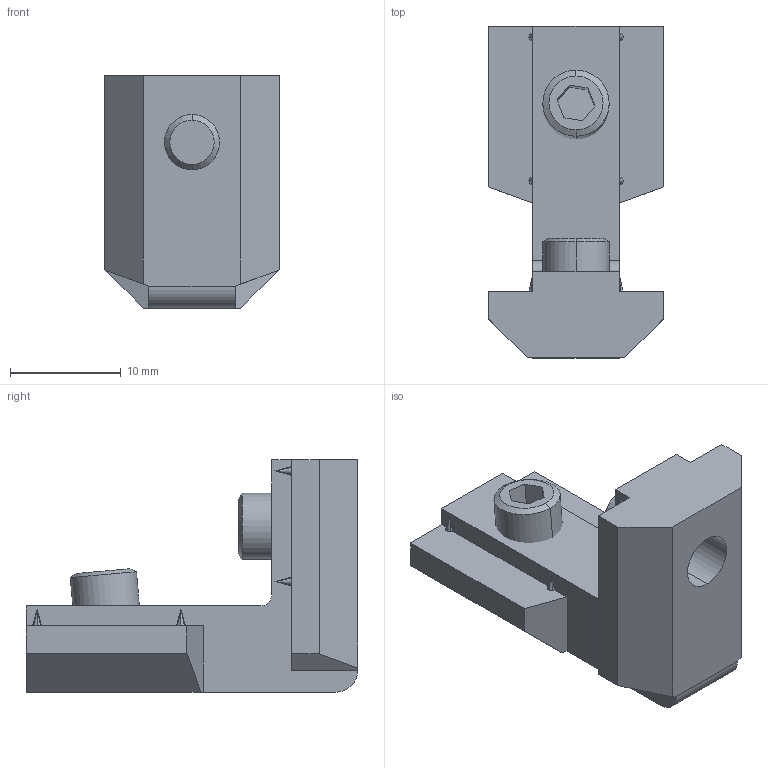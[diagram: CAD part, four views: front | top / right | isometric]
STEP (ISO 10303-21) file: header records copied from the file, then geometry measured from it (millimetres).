
FILE_DESCRIPTION (( 'STEP AP214' ), '1' );
FILE_NAME ('099I90R08.STEP', '2014-05-13T07:51:57', ( '' ), ( '' ), 'SwSTEP 2.0', 'SolidWorks 2014', '' );
FILE_SCHEMA (( 'AUTOMOTIVE_DESIGN' ));
Length unit declared in the file: millimetre
Products named in the file (1): 099I90R08
Bounding box: 15.8 x 30 x 21 mm (x, y, z)
Volume: 3812 mm3; surface area: 2494.1 mm2
Topology: 3 solids, 3 shells, 94 faces, 248 edges, 162 vertices
Faces by surface type: plane 66, cone 18, cylinder 10
Entity records: 3970 total; most frequent: CARTESIAN_POINT 517, ORIENTED_EDGE 496, DIRECTION 478, EDGE_CURVE 248, LINE 200, VECTOR 200, VERTEX_POINT 162, AXIS2_PLACEMENT_3D 139
